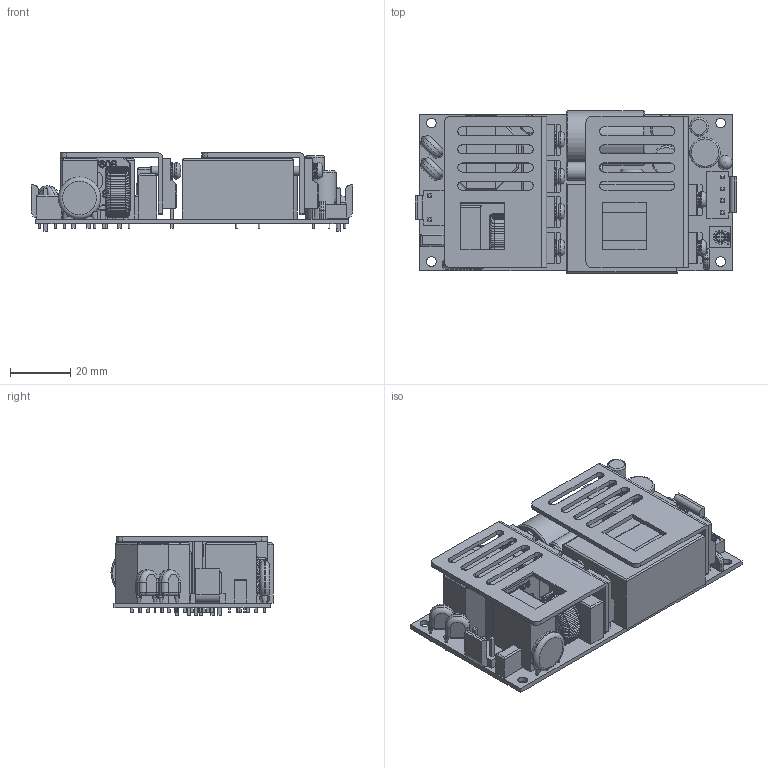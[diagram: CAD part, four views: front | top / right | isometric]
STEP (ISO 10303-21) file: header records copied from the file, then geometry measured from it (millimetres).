
FILE_DESCRIPTION(/* description */ (''),/* implementation_level */ '2;1');
FILE_NAME(/* name */ 'C:\Documents and Settings\Administrator\My Documents\Inventor\AQF100\PCB A-TYPE.stp',/* time_stamp */ '2015-10-30T00:46:05+08:00',/* author */ ('Administrator'),/* organization */ (''),/* preprocessor_version */ 'ST-DEVELOPER v15.2',/* originating_system */ 'Autodesk Inventor 2014',/* authorisation */ '');
FILE_SCHEMA (('AUTOMOTIVE_DESIGN { 1 0 10303 214 3 1 1 }'));
Products named in the file (17): PCB; Heatsink; TO-220FP; SCREW CH_W  M3_8mm; HEATSINK - X2; HEATSINK - X1; C1; L1; BD1; Y -- C; Y -- C_1; Y -- C_2; LED; VR; 2S+1 PIN; 4 PIN; PCB A-TYPE
Bounding box: 106.9 x 53.8 x 26 mm (x, y, z)
Volume: 76568.1 mm3; surface area: 45458.6 mm2
Topology: 39 solids, 126 shells, 4220 faces, 8494 edges, 4445 vertices
Faces by surface type: torus 1451, cylinder 1435, plane 1058, bspline 234, cone 41, sphere 1
Full cylindrical faces by diameter (mm): 0.45 x3, 0.5 x1, 0.6 x10, 0.8 x2, 1.85 x2, 2 x6, 2.459 x10, 3 x6, 3.1 x6, 3.2 x10, 4.7 x1, 5.8 x6, 6 x1, 6.145 x1, 6.204 x1, 9.905 x1, 10.046 x1, 10.087 x1, 18 x1
Entity records: 105972 total; most frequent: CARTESIAN_POINT 27943, DIRECTION 17207, ORIENTED_EDGE 16044, AXIS2_PLACEMENT_3D 7481, EDGE_CURVE 7326, EDGE_LOOP 3985, ADVANCED_FACE 3791, FACE_OUTER_BOUND 3763
